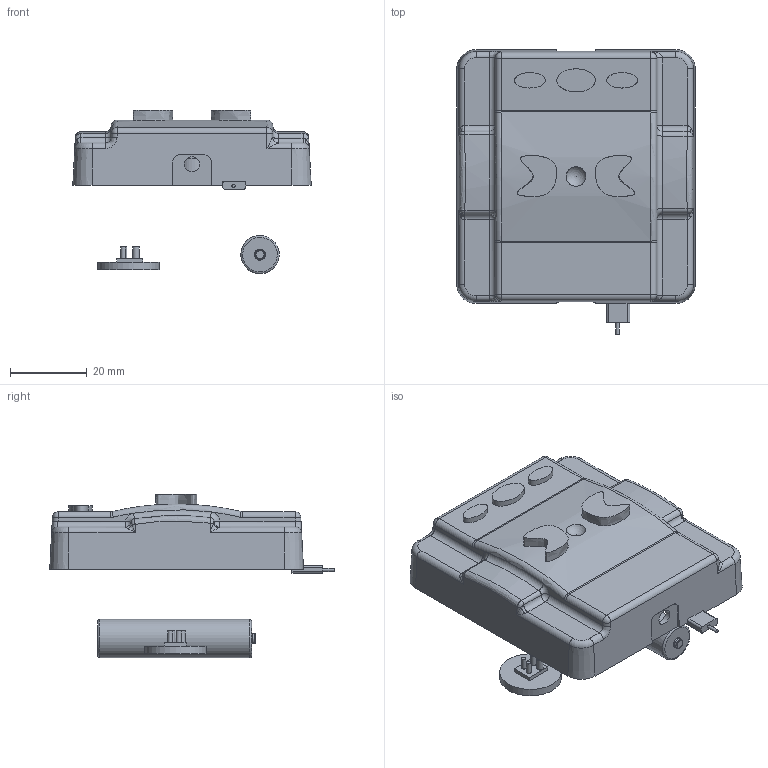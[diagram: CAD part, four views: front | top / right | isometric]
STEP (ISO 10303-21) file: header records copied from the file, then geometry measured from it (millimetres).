
FILE_DESCRIPTION(/* description */ (''),/* implementation_level */ '2;1');
FILE_NAME(/* name */ '样题1.stp',/* time_stamp */ '2022-03-14T20:16:02+08:00',/* author */ (''),/* organization */ (''),/* preprocessor_version */ 'ST-DEVELOPER v16',/* originating_system */ 'SIEMENS PLM Software NX 10.0',/* authorisation */ '');
FILE_SCHEMA (('AUTOMOTIVE_DESIGN { 1 0 10303 214 3 1 1 1 }'));
Length unit declared in the file: millimetre
Products named in the file (9): 外接件1; 按钮3; 按钮2; 按钮1; 电气元件 2; 电池; 电气元件1; 前盖; 样题1
Assembly tree (9 placements, depth 2):
  样题1
    前盖
    电气元件1
    电池
    电气元件 2
    按钮1
    按钮2  x2
    按钮3
    外接件1
Bounding box: 62 x 74 x 42.56 mm (x, y, z)
Volume: 22236.1 mm3; surface area: 22894.3 mm2
Topology: 10 solids, 10 shells, 324 faces, 772 edges, 479 vertices
Faces by surface type: plane 167, cylinder 86, torus 22, bspline 20, extrusion 14, sphere 11, cone 4
Full cylindrical faces by diameter (mm): 0.869 x1, 1.061 x1, 1.262 x1, 1.349 x1, 1.683 x1, 2.5 x1, 2.896 x3, 3 x4, 4 x2, 6 x4, 8 x1, 10 x1, 16 x1
Entity records: 10609 total; most frequent: CARTESIAN_POINT 3154, DIRECTION 1523, ORIENTED_EDGE 1414, EDGE_CURVE 707, AXIS2_PLACEMENT_3D 547, VERTEX_POINT 465, VECTOR 429, LINE 416
